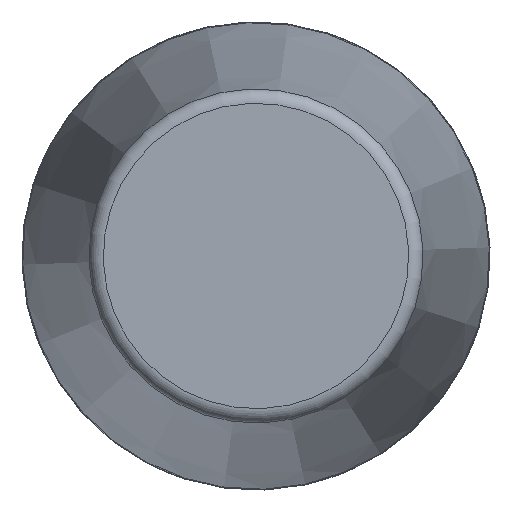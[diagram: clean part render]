
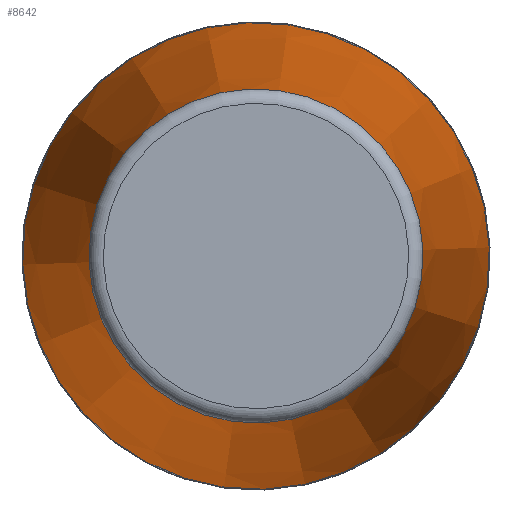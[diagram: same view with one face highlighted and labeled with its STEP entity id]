
A CAD part, front view. The second image highlights one B-rep face of the part: STEP entity #8642.
In plain terms, the highlighted conical face has half-angle 6.026 degrees and reference radius 27.695 mm.
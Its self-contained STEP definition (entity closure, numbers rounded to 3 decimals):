
#67=CONICAL_SURFACE('',#8965,27.695,0.105);
#102=CIRCLE('',#8963,23.189);
#104=CIRCLE('',#8966,32.39);
#105=CIRCLE('',#8967,32.39);
#164=FACE_BOUND('',#1972,.T.);
#1438=FACE_OUTER_BOUND('',#1971,.T.);
#1971=EDGE_LOOP('',(#7975,#7976));
#1972=EDGE_LOOP('',(#7977));
#4189=VERTEX_POINT('',#16464);
#4191=VERTEX_POINT('',#16469);
#4192=VERTEX_POINT('',#16470);
#5452=EDGE_CURVE('',#4189,#4189,#102,.T.);
#5454=EDGE_CURVE('',#4191,#4192,#104,.T.);
#5455=EDGE_CURVE('',#4192,#4191,#105,.T.);
#7975=ORIENTED_EDGE('',*,*,#5454,.T.);
#7976=ORIENTED_EDGE('',*,*,#5455,.T.);
#7977=ORIENTED_EDGE('',*,*,#5452,.F.);
#8642=ADVANCED_FACE('',(#1438,#164),#67,.T.);
#8963=AXIS2_PLACEMENT_3D('',#16465,#10154,#10155);
#8965=AXIS2_PLACEMENT_3D('',#16468,#10158,#10159);
#8966=AXIS2_PLACEMENT_3D('',#16471,#10160,#10161);
#8967=AXIS2_PLACEMENT_3D('',#16472,#10162,#10163);
#10154=DIRECTION('center_axis',(1.,0.,0.));
#10155=DIRECTION('ref_axis',(0.,0.,1.));
#10158=DIRECTION('center_axis',(-1.,0.,0.));
#10159=DIRECTION('ref_axis',(0.,0.,-1.));
#10160=DIRECTION('center_axis',(1.,0.,0.));
#10161=DIRECTION('ref_axis',(0.,0.,-1.));
#10162=DIRECTION('center_axis',(1.,0.,0.));
#10163=DIRECTION('ref_axis',(0.,0.,-1.));
#16464=CARTESIAN_POINT('',(107.21,0.,-23.189));
#16465=CARTESIAN_POINT('Origin',(107.21,0.,
0.));
#16468=CARTESIAN_POINT('Origin',(64.523,0.,0.));
#16469=CARTESIAN_POINT('',(20.047,0.,-32.39));
#16470=CARTESIAN_POINT('',(20.047,0.,32.39));
#16471=CARTESIAN_POINT('Origin',(20.047,0.,0.));
#16472=CARTESIAN_POINT('Origin',(20.047,0.,0.));
